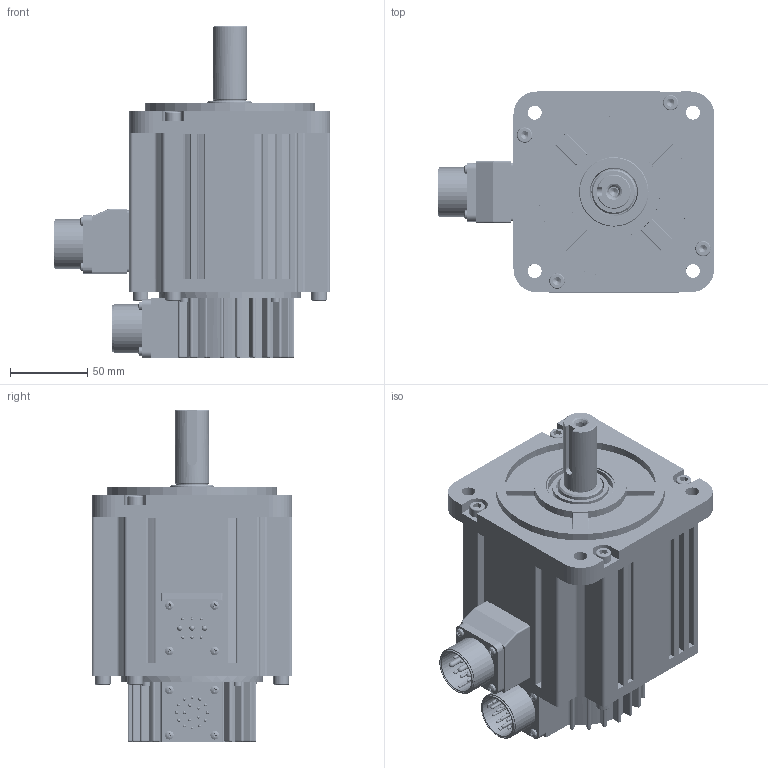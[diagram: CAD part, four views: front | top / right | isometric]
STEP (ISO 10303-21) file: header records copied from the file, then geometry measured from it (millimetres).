
FILE_DESCRIPTION((''),'2;1');
FILE_NAME('M-13E4K4A0_ASM','2019-06-13T',('zhouqs2'),(''),'CREO PARAMETRIC BY PTC INC, 2015480','CREO PARAMETRIC BY PTC INC, 2015480','');
FILE_SCHEMA(('CONFIG_CONTROL_DESIGN'));
Length unit declared in the file: millimetre
Products named in the file (20): 80D2003201; 80Q0003401; 80S2000601; ASM0001_ASM; 80D5003101; 80D2003101; 80D2000901; 80G3000501; MJ01-8033; MJ01-8041; PRT0013; 80T5001501_ASM; 80G6000101; 80G3000201; PRT0012; MJ01-8042; 80S6000401; 001_ASM; MJ01-8038; M-13E4K4A0_ASM
Assembly tree (35 placements, depth 3):
  M-13E4K4A0_ASM
    ASM0001_ASM
      80D2003201
      80Q0003401
      80S2000601
    80D5003101
    80D2003101
    80T5001501_ASM
      80D2000901
      80G3000501
      MJ01-8033  x4
      MJ01-8041  x4
      PRT0013
    001_ASM
      80G6000101
      80G3000201
      PRT0012
      MJ01-8042  x4
      80S6000401
    MJ01-8038  x8
Bounding box: 179 x 130 x 215.05 mm (x, y, z)
Volume: 558718.4 mm3; surface area: 305488.9 mm2
Topology: 31 solids, 56 shells, 5752 faces, 12559 edges, 6856 vertices
Faces by surface type: cone 2743, cylinder 2126, plane 739, sphere 118, torus 26
Entity records: 63867 total; most frequent: CARTESIAN_POINT 11883, DIRECTION 11841, ORIENTED_EDGE 10112, EDGE_CURVE 5109, AXIS2_PLACEMENT_3D 4656, VERTEX_POINT 3055, VECTOR 2529, LINE 2529
